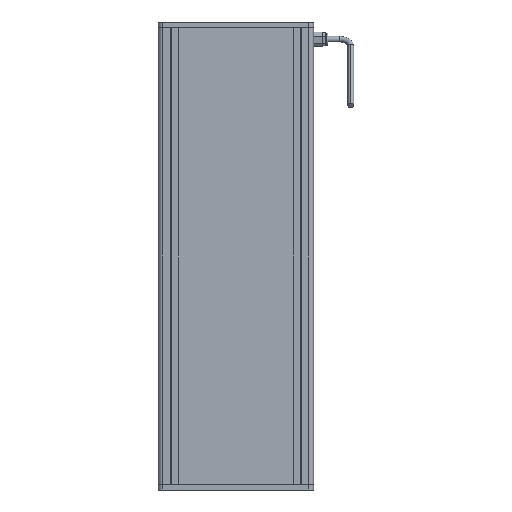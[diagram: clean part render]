
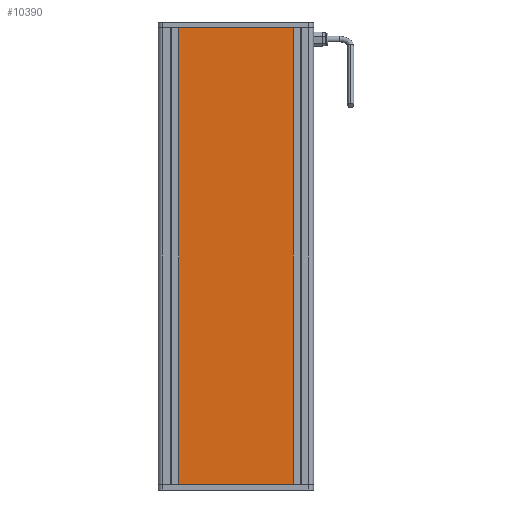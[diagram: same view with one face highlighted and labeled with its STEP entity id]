
A CAD part, front view. The second image highlights one B-rep face of the part: STEP entity #10390.
In plain terms, the highlighted planar face has unit normal (0, -1, 0) as drawn and (0, 0, 1) by its records, which use the part's own axes.
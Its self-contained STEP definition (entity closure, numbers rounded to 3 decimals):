
#557 = ORIENTED_EDGE ( 'NONE', *, *, #16449, .T. ) ;
#1500 = FACE_OUTER_BOUND ( 'NONE', #12984, .T. ) ;
#2228 = DIRECTION ( 'NONE',  ( 0., 1., 0. ) ) ;
#2322 = CARTESIAN_POINT ( 'NONE',  ( -9., 0., 0. ) ) ;
#2722 = CARTESIAN_POINT ( 'NONE',  ( -9., -400., 0. ) ) ;
#2886 = VERTEX_POINT ( 'NONE', #8865 ) ;
#3653 = CARTESIAN_POINT ( 'NONE',  ( -9., 0., 0. ) ) ;
#3956 = EDGE_CURVE ( 'NONE', #2886, #10968, #14440, .T. ) ;
#4320 = DIRECTION ( 'NONE',  ( 0., 0., -1. ) ) ;
#4394 = VECTOR ( 'NONE', #10894, 1000. ) ;
#4685 = AXIS2_PLACEMENT_3D ( 'NONE', #11047, #4320, #9746 ) ;
#4729 = ORIENTED_EDGE ( 'NONE', *, *, #3956, .T. ) ;
#5330 = CARTESIAN_POINT ( 'NONE',  ( -109., 0., 0. ) ) ;
#5651 = PLANE ( 'NONE',  #4685 ) ;
#6061 = VECTOR ( 'NONE', #2228, 1000. ) ;
#6932 = LINE ( 'NONE', #2722, #4394 ) ;
#7805 = LINE ( 'NONE', #2322, #13958 ) ;
#8865 = CARTESIAN_POINT ( 'NONE',  ( -9., -400., 0. ) ) ;
#9510 = LINE ( 'NONE', #5330, #13171 ) ;
#9582 = EDGE_CURVE ( 'NONE', #10968, #17053, #7805, .T. ) ;
#9746 = DIRECTION ( 'NONE',  ( -1., 0., 0. ) ) ;
#10315 = VERTEX_POINT ( 'NONE', #13054 ) ;
#10390 = ADVANCED_FACE ( 'NONE', ( #1500 ), #5651, .F. ) ;
#10894 = DIRECTION ( 'NONE',  ( 1., 0., 0. ) ) ;
#10968 = VERTEX_POINT ( 'NONE', #3653 ) ;
#11047 = CARTESIAN_POINT ( 'NONE',  ( 0., 0., 0. ) ) ;
#11061 = EDGE_CURVE ( 'NONE', #10315, #2886, #6932, .T. ) ;
#11585 = CARTESIAN_POINT ( 'NONE',  ( -9., 0., 0. ) ) ;
#12655 = CARTESIAN_POINT ( 'NONE',  ( -109., 0., 0. ) ) ;
#12757 = ORIENTED_EDGE ( 'NONE', *, *, #9582, .T. ) ;
#12984 = EDGE_LOOP ( 'NONE', ( #4729, #12757, #557, #16992 ) ) ;
#13054 = CARTESIAN_POINT ( 'NONE',  ( -109., -400., 0. ) ) ;
#13171 = VECTOR ( 'NONE', #13486, 1000. ) ;
#13486 = DIRECTION ( 'NONE',  ( 0., -1., 0. ) ) ;
#13958 = VECTOR ( 'NONE', #15778, 1000. ) ;
#14440 = LINE ( 'NONE', #11585, #6061 ) ;
#15778 = DIRECTION ( 'NONE',  ( -1., 0., 0. ) ) ;
#16449 = EDGE_CURVE ( 'NONE', #17053, #10315, #9510, .T. ) ;
#16992 = ORIENTED_EDGE ( 'NONE', *, *, #11061, .T. ) ;
#17053 = VERTEX_POINT ( 'NONE', #12655 ) ;
